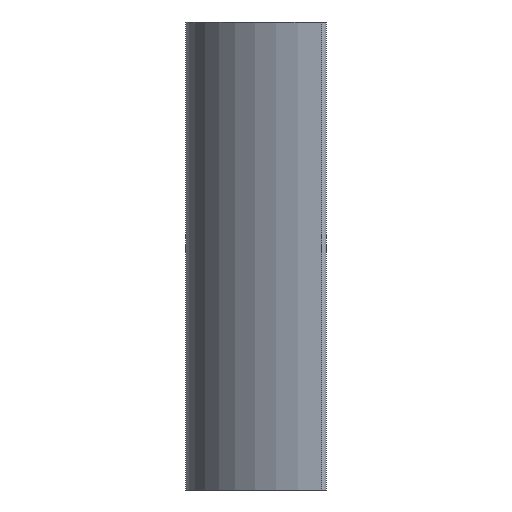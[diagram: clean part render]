
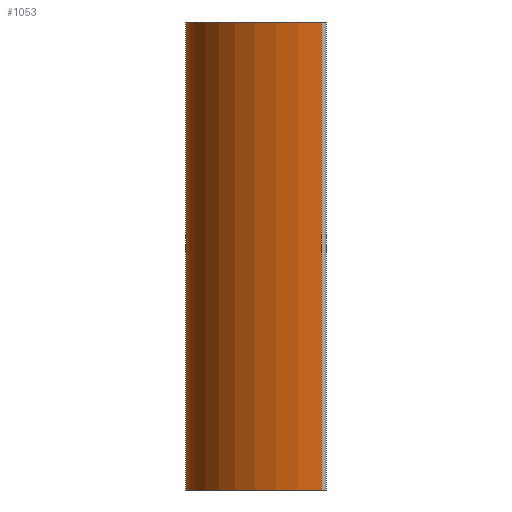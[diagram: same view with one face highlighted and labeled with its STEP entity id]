
A CAD part, left-side view. The second image highlights one B-rep face of the part: STEP entity #1053.
In plain terms, the highlighted cylindrical face has radius 30 mm (diameter 60 mm), a partial arc.
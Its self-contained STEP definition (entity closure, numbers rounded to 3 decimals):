
#43=CIRCLE('',#1147,30.);
#44=CIRCLE('',#1148,30.);
#59=CYLINDRICAL_SURFACE('',#1146,30.);
#84=FACE_OUTER_BOUND('',#137,.T.);
#137=EDGE_LOOP('',(#773,#774,#775,#776));
#222=LINE('',#1605,#349);
#223=LINE('',#1611,#350);
#349=VECTOR('',#1315,10.);
#350=VECTOR('',#1322,10.);
#474=VERTEX_POINT('',#1601);
#475=VERTEX_POINT('',#1603);
#476=VERTEX_POINT('',#1607);
#477=VERTEX_POINT('',#1609);
#598=EDGE_CURVE('',#474,#475,#222,.T.);
#599=EDGE_CURVE('',#476,#474,#43,.T.);
#600=EDGE_CURVE('',#477,#475,#44,.T.);
#601=EDGE_CURVE('',#476,#477,#223,.T.);
#773=ORIENTED_EDGE('',*,*,#599,.T.);
#774=ORIENTED_EDGE('',*,*,#598,.T.);
#775=ORIENTED_EDGE('',*,*,#600,.F.);
#776=ORIENTED_EDGE('',*,*,#601,.F.);
#1053=ADVANCED_FACE('',(#84),#59,.T.);
#1146=AXIS2_PLACEMENT_3D('',#1606,#1316,#1317);
#1147=AXIS2_PLACEMENT_3D('',#1608,#1318,#1319);
#1148=AXIS2_PLACEMENT_3D('',#1610,#1320,#1321);
#1315=DIRECTION('',(0.,0.,1.));
#1316=DIRECTION('center_axis',(0.,0.,1.));
#1317=DIRECTION('ref_axis',(-0.034,0.999,0.));
#1318=DIRECTION('center_axis',(0.,0.,1.));
#1319=DIRECTION('ref_axis',(-0.034,0.999,0.));
#1320=DIRECTION('center_axis',(0.,0.,1.));
#1321=DIRECTION('ref_axis',(-0.034,0.999,0.));
#1322=DIRECTION('',(0.,0.,1.));
#1601=CARTESIAN_POINT('',(8.918,5.846,0.));
#1603=CARTESIAN_POINT('',(8.918,5.846,100.));
#1605=CARTESIAN_POINT('',(8.918,5.846,0.));
#1606=CARTESIAN_POINT('Origin',(38.9,4.811,0.));
#1607=CARTESIAN_POINT('',(37.865,34.794,0.));
#1608=CARTESIAN_POINT('Origin',(38.9,4.811,0.));
#1609=CARTESIAN_POINT('',(37.865,34.794,100.));
#1610=CARTESIAN_POINT('Origin',(38.9,4.811,100.));
#1611=CARTESIAN_POINT('',(37.865,34.794,0.));
